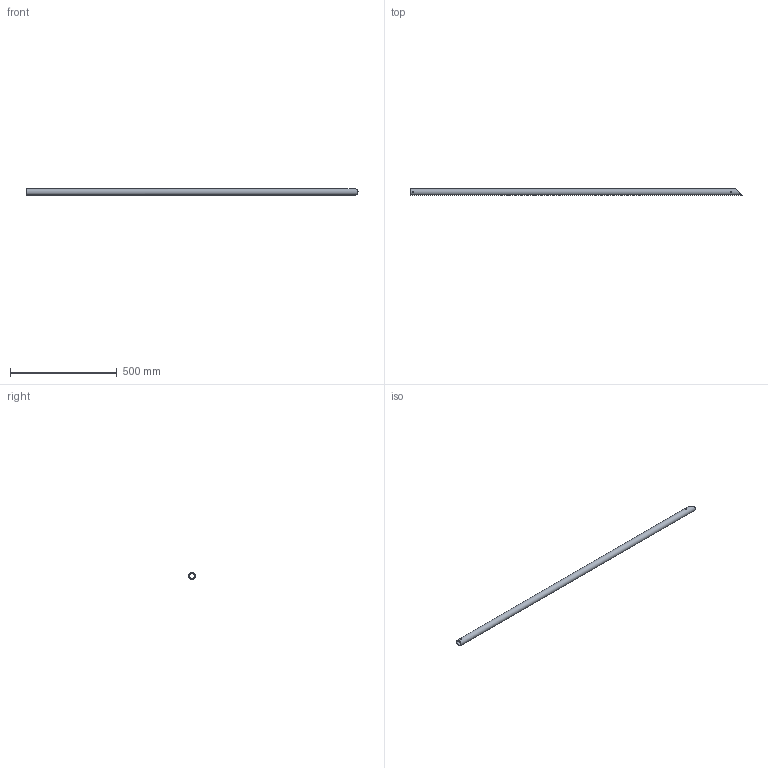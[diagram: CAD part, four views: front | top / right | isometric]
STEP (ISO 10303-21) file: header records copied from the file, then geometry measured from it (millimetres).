
FILE_DESCRIPTION(/* description */ (''),/* implementation_level */ '2;1');
FILE_NAME(/* name */ 'Pos109-Precisie buis 30x3-Aluminium-1st',/* time_stamp */ '2024-08-06T11:49:45+02:00',/* author */ (''),/* organization */ (''),/* preprocessor_version */ 'ST-DEVELOPER v16.5',/* originating_system */ 'HiCAD 2024 2901.2 Build 361',/* authorisation */ '');
FILE_SCHEMA (('AUTOMOTIVE_DESIGN { 1 0 10303 214 1 1 1 1 }'));
Length unit declared in the file: millimetre
Products named in the file (1): Pos109-Precisie buis 30x3-Aluminium-1st
Bounding box: 1553.98 x 30 x 30 mm (x, y, z)
Volume: 391509.8 mm3; surface area: 261715.8 mm2
Topology: 1 solids, 1 shells, 6 faces, 26 edges, 18 vertices
Faces by surface type: cylinder 4, plane 2
Full cylindrical faces by diameter (mm): 5 x2, 24 x1, 30 x1
Entity records: 274 total; most frequent: CARTESIAN_POINT 58, DIRECTION 20, PRESENTATION_STYLE_ASSIGNMENT 17, COLOUR_RGB 17, DRAUGHTING_PRE_DEFINED_CURVE_FONT 16, CURVE_STYLE 16, OVER_RIDING_STYLED_ITEM 16, ORIENTED_EDGE 16
